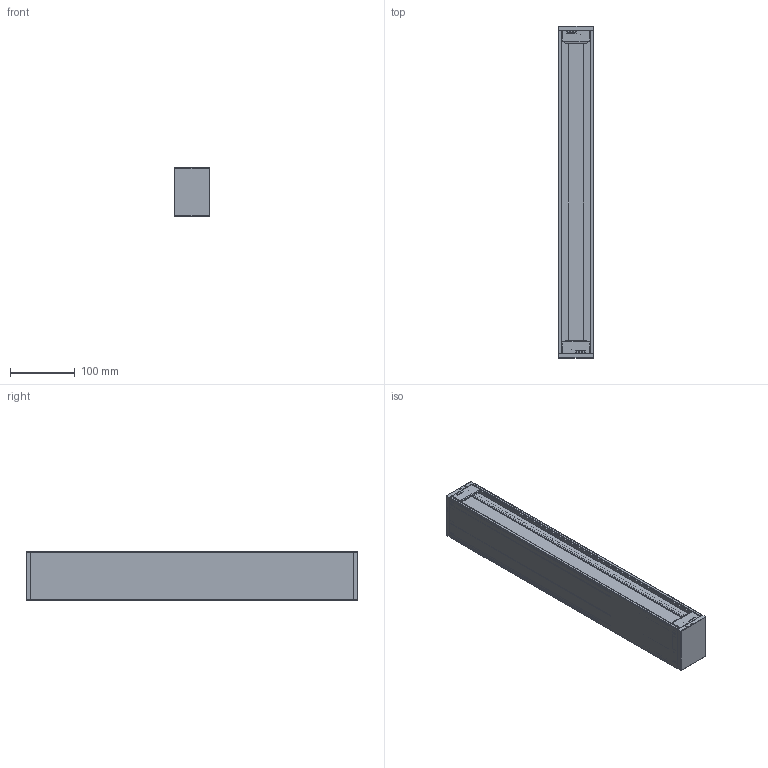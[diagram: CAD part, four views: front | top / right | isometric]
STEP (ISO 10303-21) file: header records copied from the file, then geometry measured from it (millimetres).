
FILE_DESCRIPTION(/* description */ (''),/* implementation_level */ '2;1');
FILE_NAME(/* name */ 'KISSL5~1',/* time_stamp */ '2026-04-27T16:29:37+02:00',/* author */ (''),/* organization */ (''),/* preprocessor_version */ 'ST-DEVELOPER v16.5',/* originating_system */ '',/* authorisation */ '');
FILE_SCHEMA (('AUTOMOTIVE_DESIGN'));
Products named in the file (1): Document
Bounding box: 55 x 513.48 x 75 mm (x, y, z)
Volume: 250293.5 mm3; surface area: 464288.9 mm2
Topology: 7 solids, 7 shells, 2006 faces, 5654 edges, 3662 vertices
Faces by surface type: bspline 2006
Entity records: 162384 total; most frequent: CARTESIAN_POINT 91350, B_SPLINE_CURVE_WITH_KNOTS 14816, ORIENTED_EDGE 11284, PCURVE 11284, DEFINITIONAL_REPRESENTATION 11284, SURFACE_CURVE 5642, EDGE_CURVE 5642, VERTEX_POINT 3662
